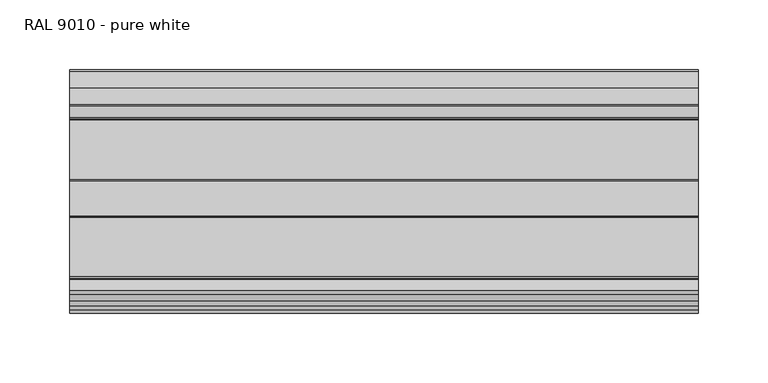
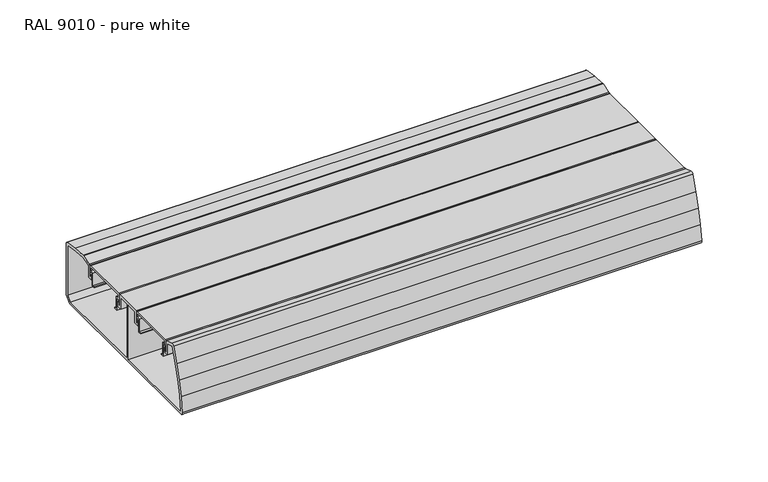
"""IFC4 building model written with IfcOpenShell, lengths in millimetres: proxy geometry, Electrical_Installations_Hager_GBD-Curved-Lid-End-Cap : RAL 9010 - pure white."""

import ifcopenshell
import ifcopenshell.guid

model = None  # the IFC model being written
_history = None  # IfcOwnerHistory: only IFC2X3 demands one
_inside = {}  # id of a spatial element -> (the spatial element, [elements in it])
_under = {}  # id of a project, library or spatial element -> (it, [spatial elements below it])
_declared = {}  # id of a project -> (the project, [libraries it declares])
_typed = {}  # id of a type object -> (the type object, [elements of that type])
_made_of = {}  # id of a material, layer set ... -> (it, [elements and type objects made of it])


def new_model(schema):
    """Start an empty IFC model of exactly this schema.

    Asked for "IFC4X3", IfcOpenShell would pick the latest addendum, in which some entities
    have other attributes; the version numbers below select the first issue.
    IFC2X3 requires an IfcOwnerHistory on every rooted entity: one is made here for all.
    """
    global model, _history
    if schema == "IFC4X3":
        model = ifcopenshell.file(schema_version=(4, 3, 0, 0))
    else:
        model = ifcopenshell.file(schema=schema)
    _inside.clear()
    _under.clear()
    _declared.clear()
    _typed.clear()
    _made_of.clear()
    _history = None
    if model.schema == "IFC2X3":
        org = make("IfcOrganization", Name="unknown")
        user = make(
            "IfcPersonAndOrganization",
            ThePerson=make("IfcPerson", FamilyName="unknown"),
            TheOrganization=org,
        )
        app = make(
            "IfcApplication",
            ApplicationDeveloper=org,
            Version="unknown",
            ApplicationFullName="unknown",
            ApplicationIdentifier="unknown",
        )
        _history = make(
            "IfcOwnerHistory",
            OwningUser=user,
            OwningApplication=app,
            ChangeAction="ADDED",
            CreationDate=0,
        )
    return model


def make(cls, **values):
    """One entity of the class cls with the attributes given. An attribute that is None is left unset."""
    return model.create_entity(
        cls, **{name: value for name, value in values.items() if value is not None}
    )


def rooted(cls, **values):
    """An entity with a GlobalId (a new one), such as an element, a storey or a relation."""
    return make(cls, GlobalId=ifcopenshell.guid.new(), OwnerHistory=_history, **values)


def si_unit(unit_type, name, prefix=None):
    """IfcSIUnit, for example si_unit("LENGTHUNIT", "METRE", prefix="MILLI")."""
    return make("IfcSIUnit", UnitType=unit_type, Prefix=prefix, Name=name)


def assignment(units):
    """IfcUnitAssignment: the units of a project."""
    return None if units is None else make("IfcUnitAssignment", Units=units)


def point(xyz):
    """IfcCartesianPoint."""
    return None if xyz is None else make("IfcCartesianPoint", Coordinates=xyz)


def direction(xyz):
    """IfcDirection."""
    return None if xyz is None else make("IfcDirection", DirectionRatios=xyz)


def frame(location, z_axis=None, x_axis=None):
    """IfcAxis2Placement3D, a coordinate frame: its origin and axes. An axis left out is left unset."""
    return make(
        "IfcAxis2Placement3D",
        Location=point(location),
        Axis=direction(z_axis),
        RefDirection=direction(x_axis),
    )


def frame_2d(location, x_axis=None):
    """IfcAxis2Placement2D, a coordinate frame in the plane: its origin and x axis."""
    return make(
        "IfcAxis2Placement2D", Location=point(location), RefDirection=direction(x_axis)
    )


def origin():
    """The frame at (0, 0, 0) with its axes left unset."""
    return frame((0.0, 0.0, 0.0))


def place(relative_to, where):
    """IfcLocalPlacement: puts the frame where relative to a parent placement (None: the world)."""
    return make(
        "IfcLocalPlacement", PlacementRelTo=relative_to, RelativePlacement=where
    )


def context(
    kind, dimensions, precision=None, world=None, true_north=None, identifier=None
):
    """IfcGeometricRepresentationContext, for example the 3D "Model" context."""
    return make(
        "IfcGeometricRepresentationContext",
        ContextIdentifier=identifier,
        ContextType=kind,
        CoordinateSpaceDimension=dimensions,
        Precision=precision,
        WorldCoordinateSystem=world,
        TrueNorth=true_north,
    )


def project(units=None, contexts=None):
    """IfcProject with its units and contexts."""
    return rooted(
        "IfcProject",
        Name="project",
        RepresentationContexts=contexts,
        UnitsInContext=assignment(units),
    )


def spatial(cls, under=None, at=None, **own):
    """A site, building, storey or space (cls), placed at a placement, below another one or the project."""
    s = rooted(cls, ObjectPlacement=at, **own)
    if under is not None:
        _under.setdefault(under.id(), (under, []))[1].append(s)
    return s


def polyline(points):
    """IfcPolyline through the points."""
    return make("IfcPolyline", Points=[point(p) for p in points])


def circle_curve(where, radius):
    """IfcCircle in the frame where."""
    return make("IfcCircle", Position=where, Radius=radius)


def trimmed(basis, trim1, trim2, sense, master):
    """IfcTrimmedCurve: the piece of a basis curve between two trims."""
    return make(
        "IfcTrimmedCurve",
        BasisCurve=basis,
        Trim1=trim1,
        Trim2=trim2,
        SenseAgreement=sense,
        MasterRepresentation=master,
    )


def segment(curve, same_sense, transition):
    """IfcCompositeCurveSegment."""
    return make(
        "IfcCompositeCurveSegment",
        Transition=transition,
        SameSense=same_sense,
        ParentCurve=curve,
    )


def composite_curve(segments, self_intersect=None):
    """IfcCompositeCurve: segments joined end to end."""
    return make("IfcCompositeCurve", Segments=segments, SelfIntersect=self_intersect)


def outline(outer, holes=None, kind="AREA"):
    """IfcArbitraryClosedProfileDef: a profile drawn as a closed curve; with holes, ...WithVoids."""
    if holes is None:
        return make("IfcArbitraryClosedProfileDef", ProfileType=kind, OuterCurve=outer)
    return make(
        "IfcArbitraryProfileDefWithVoids",
        ProfileType=kind,
        OuterCurve=outer,
        InnerCurves=holes,
    )


def extrude(swept, where, along, depth):
    """IfcExtrudedAreaSolid: the profile swept, set in the frame where, extruded along a direction by depth."""
    return make(
        "IfcExtrudedAreaSolid",
        SweptArea=swept,
        Position=where,
        ExtrudedDirection=direction(along),
        Depth=depth,
    )


def shape(context_of_items, identifier, shape_type, items):
    """IfcShapeRepresentation: the items that make up one representation, for example the "Body"."""
    return make(
        "IfcShapeRepresentation",
        ContextOfItems=context_of_items,
        RepresentationIdentifier=identifier,
        RepresentationType=shape_type,
        Items=items,
    )


def source(mapping_origin, context_of_items, identifier, shape_type, items):
    """IfcRepresentationMap: a shape defined once, which mapped items show again and again."""
    return make(
        "IfcRepresentationMap",
        MappingOrigin=mapping_origin,
        MappedRepresentation=shape(context_of_items, identifier, shape_type, items),
    )


def transform(
    local_origin,
    x_axis=None,
    y_axis=None,
    z_axis=None,
    scale=None,
    scale2=None,
    scale3=None,
    uniform=True,
):
    """IfcCartesianTransformationOperator3D, or its non-uniform kind. x_axis, y_axis, z_axis: its Axis1, 2, 3."""
    if uniform:
        return make(
            "IfcCartesianTransformationOperator3D",
            Axis1=direction(x_axis),
            Axis2=direction(y_axis),
            LocalOrigin=point(local_origin),
            Scale=scale,
            Axis3=direction(z_axis),
        )
    return make(
        "IfcCartesianTransformationOperator3DnonUniform",
        Axis1=direction(x_axis),
        Axis2=direction(y_axis),
        LocalOrigin=point(local_origin),
        Scale=scale,
        Axis3=direction(z_axis),
        Scale2=scale2,
        Scale3=scale3,
    )


def mapped(mapping_source, mapping_target):
    """IfcMappedItem: shows the shape of a source again, moved by a transform."""
    return make(
        "IfcMappedItem", MappingSource=mapping_source, MappingTarget=mapping_target
    )


def made_of(thing, what):
    """Note that an element or type object is made of a material, layer set ...; save() writes the relation."""
    if what is not None:
        _made_of.setdefault(what.id(), (what, []))[1].append(thing)
    return thing


def element(
    cls,
    number,
    at=None,
    inside=None,
    cuts=None,
    type_object=None,
    material=None,
    context=None,
    identifier="Body",
    shape_type=None,
    held_by="IfcProductDefinitionShape",
    body=None,
    shapes=None,
    **own,
):
    """One element of the class cls, such as IfcWall. Its Tag is "e" and its number.

    at: its placement. inside: the storey or other place that contains it. cuts: it is an
    opening in that element (IfcRelVoidsElement). A single representation is given by context,
    identifier, shape_type and body (its items); several are given by shapes. held_by: the class
    of the entity that holds the representations. save() writes the other relations.
    """
    e = rooted(cls, Tag="e%d" % number, ObjectPlacement=at, **own)
    if body is not None:
        shapes = [shape(context, identifier, shape_type, body)]
    if shapes is not None:
        e.Representation = make(held_by, Representations=shapes)
    if inside is not None:
        _inside.setdefault(inside.id(), (inside, []))[1].append(e)
    if cuts is not None:
        rooted(
            "IfcRelVoidsElement", RelatingBuildingElement=cuts, RelatedOpeningElement=e
        )
    if type_object is not None:
        _typed.setdefault(type_object.id(), (type_object, []))[1].append(e)
    return made_of(e, material)


def aggregate(whole, parts):
    """IfcRelAggregates: a whole, such as a stair, and the parts it consists of."""
    return rooted("IfcRelAggregates", RelatingObject=whole, RelatedObjects=parts)


def save(model, path):
    """Write the relations noted so far, then the file.

    IfcRelAggregates (storeys below a building ...), IfcRelContainedInSpatialStructure (elements
    in a storey), IfcRelDefinesByType, IfcRelAssociatesMaterial and IfcRelDeclares: one each for
    every whole, place, type object, material and project.
    """
    for whole, parts in _under.values():
        aggregate(whole, parts)
    for where, things in _inside.values():
        rooted(
            "IfcRelContainedInSpatialStructure",
            RelatedElements=things,
            RelatingStructure=where,
        )
    for kind, things in _typed.values():
        rooted("IfcRelDefinesByType", RelatedObjects=things, RelatingType=kind)
    for what, things in _made_of.values():
        rooted("IfcRelAssociatesMaterial", RelatedObjects=things, RelatingMaterial=what)
    for by, libraries in _declared.values():
        rooted("IfcRelDeclares", RelatingContext=by, RelatedDefinitions=libraries)
    model.write(path)


def ral_9010_pure_white_fe95fed6(model_context):
    return source(origin(), model_context, "Body", "SweptSolid", [
        extrude(outline(composite_curve([segment(polyline([(-85.2368553, -25.0), (-6.25, -25.0), (-6.25, 25.0), (-15.95, 25.0), (-15.95, 14.96875), (-20.25, 14.96875), (-20.25, 18.7637258), (-19.25, 18.7637258), (-19.25, 16.3), (-17.75, 16.3), (-17.75, 27.0), (7.25, 27.0), (7.25, 16.3), (8.75, 16.3), (8.75, 18.7441115), (9.75, 18.7441115), (9.75, 14.5), (5.45, 14.5), (5.45, 25.0), (-4.25, 25.0), (-4.25, -25.0), (81.2473088, -25.0), (85.2, -21.0473088), (85.2, 25.0790901), (73.4084992, 26.7822965), (61.8792753, 27.7103781), (54.05, 25.1664923), (54.05, 14.5), (49.75, 14.5), (49.75, 18.7391101), (50.75, 18.7391101), (50.75, 16.3), (52.25, 16.3), (52.25, 26.2703589)]), True, "CONTINUOUS"), segment(trimmed(circle_curve(frame_2d((53.2542649, 26.2703589)), 1.0042649), [point((52.25, 26.2703589))], [point((52.94393, 27.2254715))], False, "CARTESIAN"), True, "CONTINUOUS"), segment(polyline([(52.94393, 27.2254715), (61.1647105, 29.896565)]), True, "CONTINUOUS"), segment(trimmed(circle_curve(frame_2d((61.8535718, 27.776468)), 2.229202), [point((61.1647105, 29.896565))], [point((62.0324399, 29.9984823))], False, "CARTESIAN"), True, "CONTINUOUS"), segment(polyline([(62.0324399, 29.9984823), (73.960524, 29.0382932), (85.7542621, 27.3347636)]), True, "CONTINUOUS"), segment(trimmed(circle_curve(frame_2d((85.4630616, 25.3187476)), 2.0369384), [point((85.7542621, 27.3347636))], [point((87.5, 25.3187476))], False, "CARTESIAN"), True, "CONTINUOUS"), segment(polyline([(87.5, 25.3187476), (87.5, -22.0), (82.5, -27.0), (-85.4371356, -27.0)]), True, "CONTINUOUS"), segment(trimmed(circle_curve(frame_2d((-85.4371356, -24.9109785)), 2.0890215), [point((-85.4371356, -27.0))], [point((-87.5045544, -24.6113283))], False, "CARTESIAN"), True, "CONTINUOUS"), segment(polyline([(-87.5045544, -24.6113283), (-85.4928777, -10.7318848), (-82.665273, 2.5001298), (-78.9366987, 15.5032139), (-74.2325269, 28.6175358)]), True, "CONTINUOUS"), segment(trimmed(circle_curve(frame_2d((-72.2816269, 27.9177383)), 2.0726137), [point((-74.2325269, 28.6175358))], [point((-71.641154, 29.8889111))], False, "CARTESIAN"), True, "CONTINUOUS"), segment(polyline([(-71.641154, 29.8889111), (-63.6327057, 27.2868085)]), True, "CONTINUOUS"), segment(trimmed(circle_curve(frame_2d((-63.9575866, 26.286928)), 1.0513366), [point((-63.6327057, 27.2868085))], [point((-62.90625, 26.286928))], False, "CARTESIAN"), True, "CONTINUOUS"), segment(polyline([(-62.90625, 26.286928), (-62.90625, 16.3), (-61.25, 16.3), (-61.25, 18.7177382), (-60.25, 18.7177382), (-60.25, 14.96875), (-64.55, 14.96875), (-64.55, 25.1664923), (-72.1420805, 27.6333088), (-76.7464574, 14.7971958), (-80.4325779, 1.9421659), (-83.2276507, -11.1376133), (-85.2368553, -25.0)]), True, "CONTINUOUS")], self_intersect=False)), frame((0.0, 0.0, 0.0), z_axis=(1.0, 0.0, 0.0), x_axis=(0.0, 1.0, 0.0)), (0.0, 0.0, 1.0), 452.0539182),
        extrude(outline(composite_curve([segment(polyline([(-19.317297, 25.7013932), (-61.217297, 25.7013932), (-61.217297, 22.4013932), (-57.767297, 22.4013932), (-57.767297, 10.8013932), (-55.867297, 10.8013932), (-55.867297, 10.0013932), (-58.767297, 10.0013932), (-58.767297, 21.4013932), (-61.5204385, 21.4013932), (-61.5204385, 17.0930522), (-62.5219845, 17.0930522), (-62.5219845, 26.2097868)]), True, "CONTINUOUS"), segment(trimmed(circle_curve(frame_2d((-61.6120226, 26.2097868)), 0.9099619), [point((-62.5219845, 26.2097868))], [point((-61.6120226, 27.1197487))], False, "CARTESIAN"), True, "CONTINUOUS"), segment(polyline([(-61.6120226, 27.1197487), (-19.1379774, 27.1197487)]), True, "CONTINUOUS"), segment(trimmed(circle_curve(frame_2d((-19.1379774, 26.1115683)), 1.0081804), [point((-19.1379774, 27.1197487))], [point((-18.129797, 26.1115683))], False, "CARTESIAN"), True, "CONTINUOUS"), segment(polyline([(-18.129797, 26.1115683), (-18.129797, 17.0930522), (-19.0141556, 17.0930522), (-19.0141556, 21.4013932), (-21.767297, 21.4013932), (-21.767297, 10.0013932), (-24.667297, 10.0013932), (-24.667297, 10.8013932), (-22.767297, 10.8013932), (-22.767297, 22.4013932), (-19.317297, 22.4013932), (-19.317297, 25.7013932)]), True, "CONTINUOUS")], self_intersect=False)), frame((0.0, 0.0, 0.0), z_axis=(1.0, 0.0, 0.0), x_axis=(0.0, 1.0, 0.0)), (0.0, 0.0, 1.0), 452.0539182),
        extrude(outline(composite_curve([segment(polyline([(50.7405963, 25.7013932), (8.8405963, 25.7013932), (8.8405963, 22.4013932), (12.2905963, 22.4013932), (12.2905963, 10.8013932), (14.1905963, 10.8013932), (14.1905963, 10.0013932), (11.2905963, 10.0013932), (11.2905963, 21.4013932), (8.5374548, 21.4013932), (8.5374548, 17.0930522), (7.5359088, 17.0930522), (7.5359088, 26.2097868)]), True, "CONTINUOUS"), segment(trimmed(circle_curve(frame_2d((8.4458707, 26.2097868)), 0.9099619), [point((7.5359088, 26.2097868))], [point((8.4458707, 27.1197487))], False, "CARTESIAN"), True, "CONTINUOUS"), segment(polyline([(8.4458707, 27.1197487), (50.9199159, 27.1197487)]), True, "CONTINUOUS"), segment(trimmed(circle_curve(frame_2d((50.9199159, 26.1115683)), 1.0081804), [point((50.9199159, 27.1197487))], [point((51.9280963, 26.1115683))], False, "CARTESIAN"), True, "CONTINUOUS"), segment(polyline([(51.9280963, 26.1115683), (51.9280963, 17.0930522), (51.0437378, 17.0930522), (51.0437378, 21.4013932), (48.2905963, 21.4013932), (48.2905963, 10.0013932), (45.3905963, 10.0013932), (45.3905963, 10.8013932), (47.2905963, 10.8013932), (47.2905963, 22.4013932), (50.7405963, 22.4013932), (50.7405963, 25.7013932)]), True, "CONTINUOUS")], self_intersect=False)), frame((0.0, 0.0, 0.0), z_axis=(1.0, 0.0, 0.0), x_axis=(0.0, 1.0, 0.0)), (0.0, 0.0, 1.0), 452.0539182),
    ])


if __name__ == "__main__":
    model = new_model("IFC4")
    model_context = context("Model", 3, world=origin())
    ifc_project = project(units=[si_unit("LENGTHUNIT", "METRE", prefix="MILLI")], contexts=[model_context])
    site = spatial("IfcSite", under=ifc_project)
    building = spatial("IfcBuilding", under=site)
    placement = place(None, origin())
    ral_9010_pure_white_shape = ral_9010_pure_white_fe95fed6(model_context)
    element("IfcBuildingElementProxy", 1, Name="Electrical_Installations_Hager_GBD-Curved-Lid-End-Cap : RAL 9010 - pure white", ObjectType="Electrical_Installations_Hager_GBD-Curved-Lid-End-Cap : RAL 9010 - pure white", at=placement, inside=building, context=model_context, shape_type="MappedRepresentation", body=[
        mapped(ral_9010_pure_white_shape, transform((0.0, 0.0, 0.0), x_axis=(1.0, 0.0, 0.0), y_axis=(0.0, 1.0, 0.0), z_axis=(0.0, 0.0, 1.0))),
    ])
    save(model, "model.ifc")
